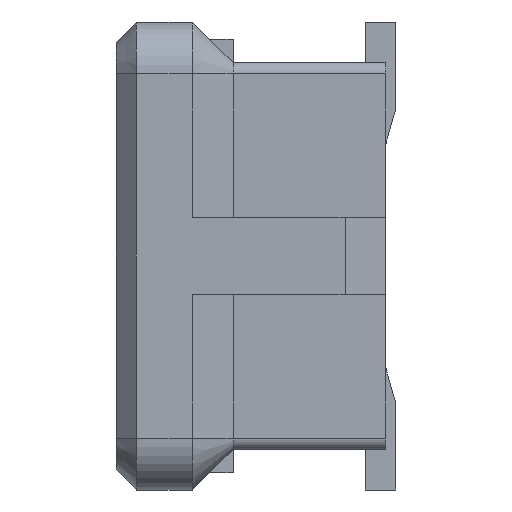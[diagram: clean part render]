
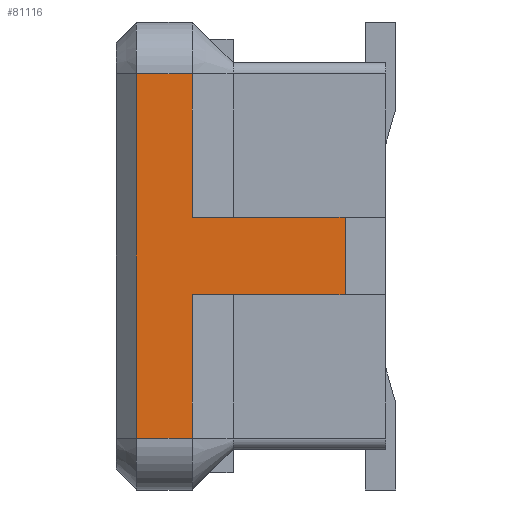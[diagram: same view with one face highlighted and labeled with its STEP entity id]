
A CAD part, left-side view. The second image highlights one B-rep face of the part: STEP entity #81116.
In plain terms, the highlighted planar face has unit normal (-1, 0, 0).
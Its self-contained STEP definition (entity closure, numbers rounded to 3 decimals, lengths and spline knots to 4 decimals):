
#22987=DIRECTION('',(0.,1.,0.));
#22988=VECTOR('',#22987,1.5);
#22989=CARTESIAN_POINT('',(-8.15,0.4,-0.38));
#22990=LINE('51743',#22989,#22988);
#22991=DIRECTION('',(0.,0.,-1.));
#22992=VECTOR('',#22991,0.76);
#22993=CARTESIAN_POINT('',(-8.15,0.4,0.38));
#22994=LINE('51727',#22993,#22992);
#22995=DIRECTION('',(0.,0.,1.));
#22996=VECTOR('',#22995,1.41);
#22997=CARTESIAN_POINT('',(-8.15,1.9,
-1.79));
#22998=LINE('51657',#22997,#22996);
#22999=DIRECTION('',(0.,1.,0.));
#23000=VECTOR('',#22999,0.55);
#23001=CARTESIAN_POINT('',(-8.15,1.9,
-1.79));
#23002=LINE('49666',#23001,#23000);
#23003=DIRECTION('',(0.,0.,-1.));
#23004=VECTOR('',#23003,3.58);
#23005=CARTESIAN_POINT('',(-8.15,2.45,
1.79));
#23006=LINE('49465',#23005,#23004);
#23007=DIRECTION('',(0.,-1.,0.));
#23008=VECTOR('',#23007,0.55);
#23009=CARTESIAN_POINT('',(-8.15,2.45,
1.79));
#23010=LINE('49668',#23009,#23008);
#23011=DIRECTION('',(0.,0.,1.));
#23012=VECTOR('',#23011,1.41);
#23013=CARTESIAN_POINT('',(-8.15,1.9,0.38));
#23014=LINE('51658',#23013,#23012);
#23015=DIRECTION('',(0.,1.,0.));
#23016=VECTOR('',#23015,1.5);
#23017=CARTESIAN_POINT('',(-8.15,0.4,0.38));
#23018=LINE('51742',#23017,#23016);
#53728=CARTESIAN_POINT('',(-8.15,2.45,-1.79));
#53730=VERTEX_POINT('',#53728);
#53736=CARTESIAN_POINT('',(-8.15,2.45,
1.79));
#53737=VERTEX_POINT('',#53736);
#53776=CARTESIAN_POINT('',(-8.15,1.9,1.79));
#53777=VERTEX_POINT('',#53776);
#53781=CARTESIAN_POINT('',(-8.15,1.9,-1.79));
#53783=VERTEX_POINT('',#53781);
#54004=CARTESIAN_POINT('',(-8.15,1.9,-0.38));
#54006=VERTEX_POINT('',#54004);
#54008=CARTESIAN_POINT('',(-8.15,1.9,0.38));
#54010=VERTEX_POINT('',#54008);
#54013=CARTESIAN_POINT('',(-8.15,0.4,-0.38));
#54015=VERTEX_POINT('',#54013);
#54016=CARTESIAN_POINT('',(-8.15,0.4,0.38));
#54017=VERTEX_POINT('',#54016);
#81098=CARTESIAN_POINT('',(-8.15,0.,-2.3));
#81099=DIRECTION('',(1.,0.,0.));
#81100=DIRECTION('',(0.,0.,1.));
#81101=AXIS2_PLACEMENT_3D('',#81098,#81099,#81100);
#81102=PLANE('48235',#81101);
#81103=ORIENTED_EDGE('51727',*,*,#81090,.T.);
#81104=ORIENTED_EDGE('51743',*,*,#81079,.T.);
#81105=ORIENTED_EDGE('51657',*,*,#81048,.F.);
#81106=ORIENTED_EDGE('49666',*,*,#81018,.T.);
#81108=ORIENTED_EDGE('49465',*,*,#81107,.F.);
#81110=ORIENTED_EDGE('49668',*,*,#81109,.T.);
#81111=ORIENTED_EDGE('51658',*,*,#81060,.F.);
#81113=ORIENTED_EDGE('51742',*,*,#81112,.F.);
#81114=EDGE_LOOP('48235',(#81103,#81104,#81105,#81106,#81108,#81110,#81111,
#81113));
#81115=FACE_OUTER_BOUND('48235',#81114,.F.);
#81018=EDGE_CURVE('49666',#53783,#53730,#23002,.T.);
#81048=EDGE_CURVE('51657',#53783,#54006,#22998,.T.);
#81060=EDGE_CURVE('51658',#54010,#53777,#23014,.T.);
#81079=EDGE_CURVE('51743',#54015,#54006,#22990,.T.);
#81090=EDGE_CURVE('51727',#54017,#54015,#22994,.T.);
#81107=EDGE_CURVE('49465',#53737,#53730,#23006,.T.);
#81109=EDGE_CURVE('49668',#53737,#53777,#23010,.T.);
#81112=EDGE_CURVE('51742',#54017,#54010,#23018,.T.);
#81116=ADVANCED_FACE('48235',(#81115),#81102,.F.);
